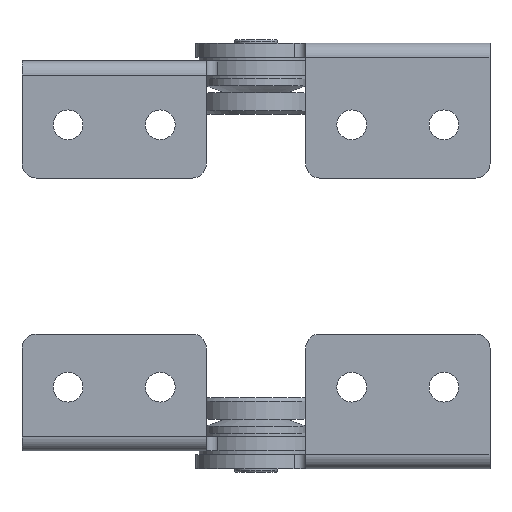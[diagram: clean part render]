
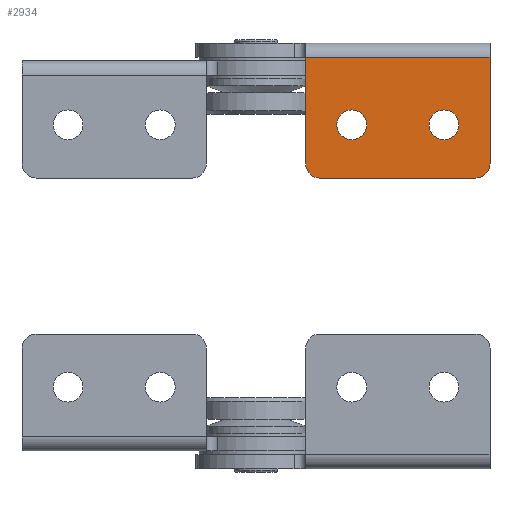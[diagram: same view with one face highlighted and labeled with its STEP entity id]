
A CAD part, front view. The second image highlights one B-rep face of the part: STEP entity #2934.
In plain terms, the highlighted planar face has unit normal (0, -1, 0).
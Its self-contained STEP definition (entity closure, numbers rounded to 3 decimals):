
#2 = LINE ( 'NONE', #3073, #4666 ) ;
#4 = DIRECTION ( 'NONE',  ( 0., -1., 0. ) ) ;
#38 = CIRCLE ( 'NONE', #1769, 2.1 ) ;
#79 = DIRECTION ( 'NONE',  ( 0., 0., -1. ) ) ;
#147 = CIRCLE ( 'NONE', #2286, 2.1 ) ;
#237 = CARTESIAN_POINT ( 'NONE',  ( 13.5, 0., -9.5 ) ) ;
#318 = CARTESIAN_POINT ( 'NONE',  ( 31., 0., -17. ) ) ;
#338 = VERTEX_POINT ( 'NONE', #3267 ) ;
#340 = DIRECTION ( 'NONE',  ( 0., 0., -1. ) ) ;
#426 = FACE_BOUND ( 'NONE', #2956, .T. ) ;
#466 = VERTEX_POINT ( 'NONE', #3049 ) ;
#476 = VERTEX_POINT ( 'NONE', #2429 ) ;
#545 = CARTESIAN_POINT ( 'NONE',  ( 7., 0., 2. ) ) ;
#557 = AXIS2_PLACEMENT_3D ( 'NONE', #2351, #832, #1604 ) ;
#566 = CARTESIAN_POINT ( 'NONE',  ( 26.5, 0., -7.4 ) ) ;
#574 = VERTEX_POINT ( 'NONE', #566 ) ;
#603 = VERTEX_POINT ( 'NONE', #3254 ) ;
#824 = ORIENTED_EDGE ( 'NONE', *, *, #3009, .F. ) ;
#832 = DIRECTION ( 'NONE',  ( 0., -1., 0. ) ) ;
#896 = VERTEX_POINT ( 'NONE', #3967 ) ;
#911 = DIRECTION ( 'NONE',  ( 1., 0., 0. ) ) ;
#1184 = CARTESIAN_POINT ( 'NONE',  ( 7., 0., 2. ) ) ;
#1264 = CARTESIAN_POINT ( 'NONE',  ( 31., 0., -17. ) ) ;
#1266 = CIRCLE ( 'NONE', #1925, 2.1 ) ;
#1342 = CARTESIAN_POINT ( 'NONE',  ( 33., 0., 0. ) ) ;
#1365 = DIRECTION ( 'NONE',  ( -1., 0., 0. ) ) ;
#1373 = DIRECTION ( 'NONE',  ( 0., -1., 0. ) ) ;
#1403 = EDGE_CURVE ( 'NONE', #1543, #476, #2340, .T. ) ;
#1469 = EDGE_CURVE ( 'NONE', #2764, #466, #3906, .T. ) ;
#1477 = VERTEX_POINT ( 'NONE', #4884 ) ;
#1488 = FACE_OUTER_BOUND ( 'NONE', #3278, .T. ) ;
#1543 = VERTEX_POINT ( 'NONE', #1264 ) ;
#1604 = DIRECTION ( 'NONE',  ( 0., 0., -1. ) ) ;
#1758 = CARTESIAN_POINT ( 'NONE',  ( 31., 0., -15. ) ) ;
#1769 = AXIS2_PLACEMENT_3D ( 'NONE', #4238, #2373, #79 ) ;
#1783 = AXIS2_PLACEMENT_3D ( 'NONE', #2206, #1373, #4453 ) ;
#1786 = DIRECTION ( 'NONE',  ( 0., 0., -1. ) ) ;
#1856 = EDGE_LOOP ( 'NONE', ( #4418, #4434 ) ) ;
#1879 = ORIENTED_EDGE ( 'NONE', *, *, #4314, .T. ) ;
#1925 = AXIS2_PLACEMENT_3D ( 'NONE', #237, #2180, #3683 ) ;
#1947 = FACE_BOUND ( 'NONE', #1856, .T. ) ;
#1955 = ORIENTED_EDGE ( 'NONE', *, *, #2655, .F. ) ;
#1996 = CIRCLE ( 'NONE', #557, 2.1 ) ;
#2122 = LINE ( 'NONE', #545, #3098 ) ;
#2180 = DIRECTION ( 'NONE',  ( 0., -1., 0. ) ) ;
#2206 = CARTESIAN_POINT ( 'NONE',  ( 9., 0., -15. ) ) ;
#2208 = ORIENTED_EDGE ( 'NONE', *, *, #1403, .T. ) ;
#2214 = ORIENTED_EDGE ( 'NONE', *, *, #1469, .T. ) ;
#2286 = AXIS2_PLACEMENT_3D ( 'NONE', #3763, #4, #340 ) ;
#2291 = EDGE_CURVE ( 'NONE', #896, #2764, #2122, .T. ) ;
#2340 = CIRCLE ( 'NONE', #3511, 2. ) ;
#2351 = CARTESIAN_POINT ( 'NONE',  ( 26.5, 0., -9.5 ) ) ;
#2373 = DIRECTION ( 'NONE',  ( 0., -1., 0. ) ) ;
#2429 = CARTESIAN_POINT ( 'NONE',  ( 33., 0., -15. ) ) ;
#2481 = DIRECTION ( 'NONE',  ( 0., 0., -1. ) ) ;
#2522 = ORIENTED_EDGE ( 'NONE', *, *, #2291, .T. ) ;
#2536 = EDGE_CURVE ( 'NONE', #3127, #896, #4448, .T. ) ;
#2598 = DIRECTION ( 'NONE',  ( 1., 0., 0. ) ) ;
#2631 = ORIENTED_EDGE ( 'NONE', *, *, #2536, .T. ) ;
#2655 = EDGE_CURVE ( 'NONE', #1477, #603, #1266, .T. ) ;
#2699 = VECTOR ( 'NONE', #1365, 1000. ) ;
#2764 = VERTEX_POINT ( 'NONE', #3698 ) ;
#2934 = ADVANCED_FACE ( 'NONE', ( #1488, #426, #1947 ), #3062, .F. ) ;
#2956 = EDGE_LOOP ( 'NONE', ( #1955, #824 ) ) ;
#3009 = EDGE_CURVE ( 'NONE', #603, #1477, #38, .T. ) ;
#3049 = CARTESIAN_POINT ( 'NONE',  ( 9., 0., -17. ) ) ;
#3062 = PLANE ( 'NONE',  #3338 ) ;
#3073 = CARTESIAN_POINT ( 'NONE',  ( 33., 0., 2. ) ) ;
#3098 = VECTOR ( 'NONE', #2481, 1000. ) ;
#3127 = VERTEX_POINT ( 'NONE', #1342 ) ;
#3254 = CARTESIAN_POINT ( 'NONE',  ( 13.5, 0., -7.4 ) ) ;
#3267 = CARTESIAN_POINT ( 'NONE',  ( 26.5, 0., -11.6 ) ) ;
#3278 = EDGE_LOOP ( 'NONE', ( #4301, #2631, #2522, #2214, #1879, #2208 ) ) ;
#3338 = AXIS2_PLACEMENT_3D ( 'NONE', #1184, #4263, #911 ) ;
#3343 = EDGE_CURVE ( 'NONE', #3127, #476, #2, .T. ) ;
#3454 = EDGE_CURVE ( 'NONE', #338, #574, #1996, .T. ) ;
#3456 = DIRECTION ( 'NONE',  ( 0., 0., -1. ) ) ;
#3511 = AXIS2_PLACEMENT_3D ( 'NONE', #1758, #3983, #1786 ) ;
#3534 = VECTOR ( 'NONE', #2598, 1000. ) ;
#3683 = DIRECTION ( 'NONE',  ( 0., 0., -1. ) ) ;
#3698 = CARTESIAN_POINT ( 'NONE',  ( 7., 0., -15. ) ) ;
#3763 = CARTESIAN_POINT ( 'NONE',  ( 26.5, 0., -9.5 ) ) ;
#3906 = CIRCLE ( 'NONE', #1783, 2. ) ;
#3967 = CARTESIAN_POINT ( 'NONE',  ( 7., 0., 0. ) ) ;
#3983 = DIRECTION ( 'NONE',  ( 0., -1., 0. ) ) ;
#4092 = LINE ( 'NONE', #318, #3534 ) ;
#4238 = CARTESIAN_POINT ( 'NONE',  ( 13.5, 0., -9.5 ) ) ;
#4250 = EDGE_CURVE ( 'NONE', #574, #338, #147, .T. ) ;
#4263 = DIRECTION ( 'NONE',  ( 0., 1., 0. ) ) ;
#4301 = ORIENTED_EDGE ( 'NONE', *, *, #3343, .F. ) ;
#4314 = EDGE_CURVE ( 'NONE', #466, #1543, #4092, .T. ) ;
#4418 = ORIENTED_EDGE ( 'NONE', *, *, #3454, .F. ) ;
#4434 = ORIENTED_EDGE ( 'NONE', *, *, #4250, .F. ) ;
#4448 = LINE ( 'NONE', #4767, #2699 ) ;
#4453 = DIRECTION ( 'NONE',  ( 0., 0., 1. ) ) ;
#4666 = VECTOR ( 'NONE', #3456, 1000. ) ;
#4767 = CARTESIAN_POINT ( 'NONE',  ( 7., 0., 0. ) ) ;
#4884 = CARTESIAN_POINT ( 'NONE',  ( 13.5, 0., -11.6 ) ) ;
